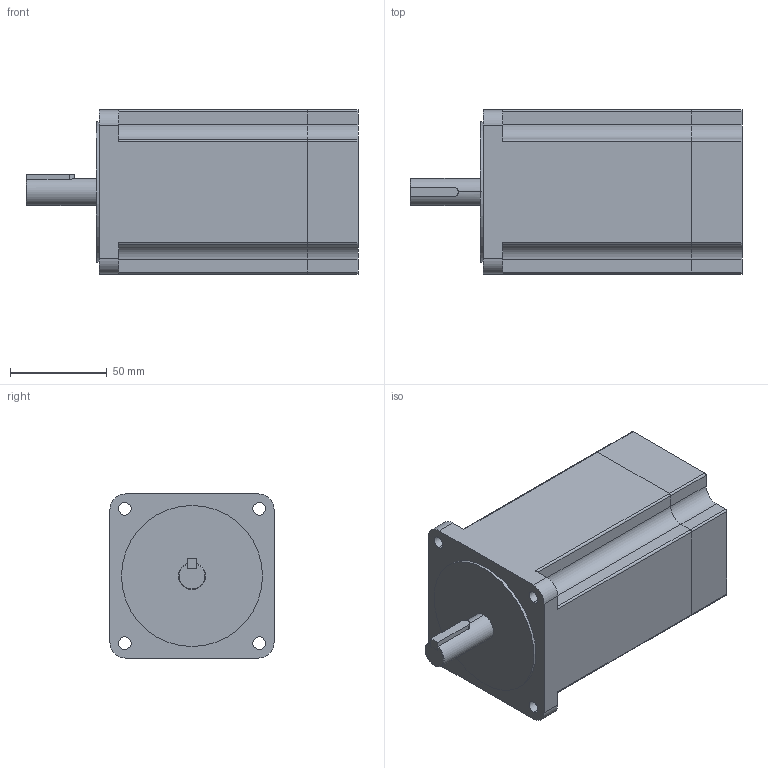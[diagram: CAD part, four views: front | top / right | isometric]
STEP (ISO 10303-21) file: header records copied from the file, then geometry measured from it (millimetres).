
FILE_DESCRIPTION (( 'STEP AP203' ), '1' );
FILE_NAME ('TM3402A60A-P1000.STEP', '2019-02-16T03:35:36', ( 'User' ), ( 'www.dadighost.com' ), 'SwSTEP 2.0', 'SolidWorks 2014', '' );
FILE_SCHEMA (( 'CONFIG_CONTROL_DESIGN' ));
Length unit declared in the file: millimetre
Products named in the file (1): TM3402A60A-P1000
Bounding box: 172 x 85 x 85 mm (x, y, z)
Volume: 868586.6 mm3; surface area: 73549.2 mm2
Topology: 3 solids, 3 shells, 87 faces, 235 edges, 156 vertices
Faces by surface type: cylinder 43, plane 42, cone 2
Entity records: 2878 total; most frequent: CARTESIAN_POINT 517, DIRECTION 493, ORIENTED_EDGE 470, EDGE_CURVE 235, AXIS2_PLACEMENT_3D 174, VERTEX_POINT 156, LINE 145, VECTOR 145
